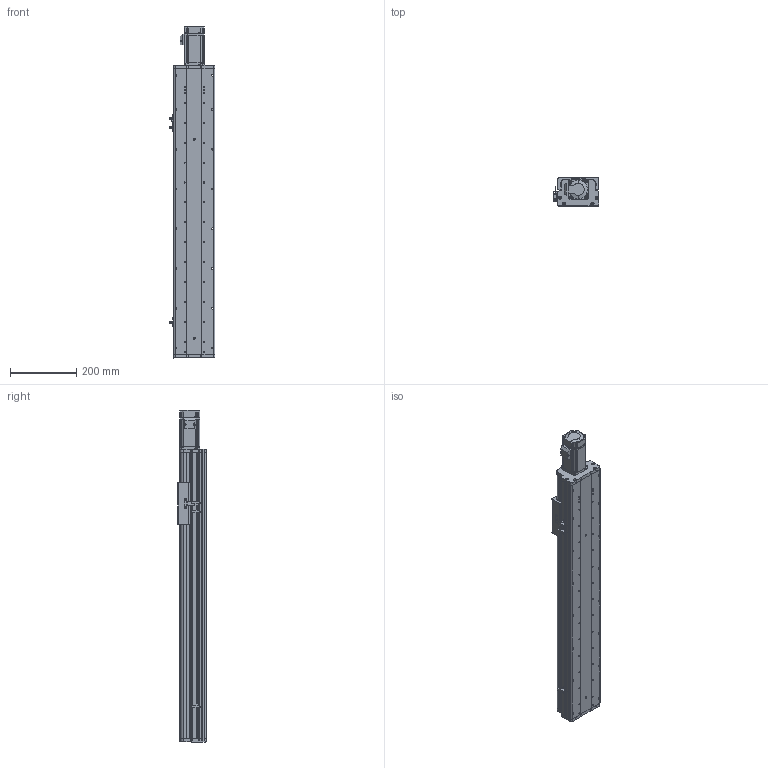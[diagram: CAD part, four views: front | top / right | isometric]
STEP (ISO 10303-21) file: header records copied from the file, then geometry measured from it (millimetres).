
FILE_DESCRIPTION (( 'STEP AP214' ), '1' );
FILE_NAME ('KSD125S-S600-MN-CM.STEP', '2017-08-07T06:14:27', ( '微软用户' ), ( '微软中国' ), 'SwSTEP 2.0', 'SolidWorks 2014', '' );
FILE_SCHEMA (( 'AUTOMOTIVE_DESIGN' ));
Length unit declared in the file: millimetre
Products named in the file (12): 覜茼え68遵圉猾敕; U倰嫖萇假蚾璃; U倰嫖萇EEㄜSX672; KSD125-賑雄釱1; CS-34X32-10X14; 125-帣傷啣1; KSD125S-S600-MN-CM; KSD125S-600行程丝杆防尘盖-直连不带电机座; KSD125S-600行程丝杆底板-直连不带电机座; 125宽模组 - 直连不带电机座电机安装板; MHMD042G1CA_2_03; 拸萇儂釱滅袉菜
Assembly tree (15 placements, depth 2):
  KSD125S-S600-MN-CM
    125-帣傷啣1
    CS-34X32-10X14
    KSD125-賑雄釱1
    U倰嫖萇EEㄜSX672  x3
    U倰嫖萇假蚾璃  x3
    覜茼え68遵圉猾敕
    拸萇儂釱滅袉菜
    MHMD042G1CA_2_03
    125宽模组 - 直连不带电机座电机安装板
    KSD125S-600行程丝杆底板-直连不带电机座
    KSD125S-600行程丝杆防尘盖-直连不带电机座
Bounding box: 138.7 x 86 x 1001.5 mm (x, y, z)
Volume: 2918629.4 mm3; surface area: 963218.5 mm2
Topology: 14 solids, 17 shells, 1464 faces, 4239 edges, 2789 vertices
Faces by surface type: cylinder 732, plane 619, cone 91, bspline 22
Entity records: 51600 total; most frequent: CARTESIAN_POINT 11022, DIRECTION 7311, ORIENTED_EDGE 6986, EDGE_CURVE 3571, AXIS2_PLACEMENT_3D 2684, VERTEX_POINT 2381, LINE 1943, VECTOR 1943
